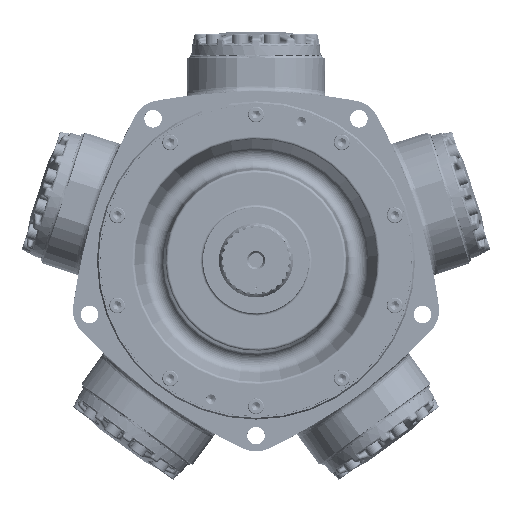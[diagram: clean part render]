
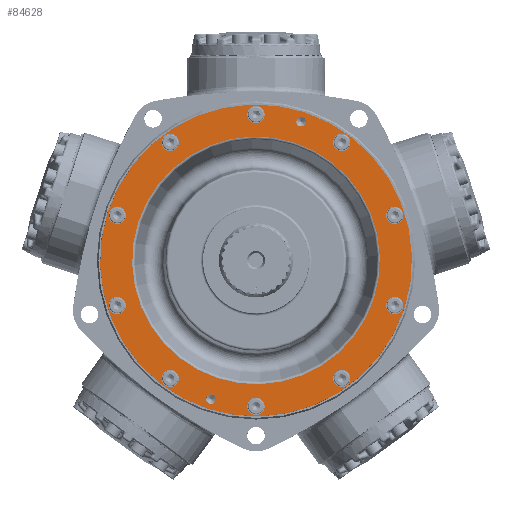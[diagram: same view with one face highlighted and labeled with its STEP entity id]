
A CAD part, top view. The second image highlights one B-rep face of the part: STEP entity #84628.
In plain terms, the highlighted planar face has unit normal (0, 0, 1).
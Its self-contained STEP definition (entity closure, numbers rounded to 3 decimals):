
#6996=FACE_BOUND('',#25705,.T.);
#6997=FACE_BOUND('',#25706,.T.);
#6998=FACE_BOUND('',#25707,.T.);
#6999=FACE_BOUND('',#25708,.T.);
#7000=FACE_BOUND('',#25709,.T.);
#7001=FACE_BOUND('',#25710,.T.);
#7002=FACE_BOUND('',#25711,.T.);
#7003=FACE_BOUND('',#25712,.T.);
#7004=FACE_BOUND('',#25713,.T.);
#7005=FACE_BOUND('',#25714,.T.);
#7006=FACE_BOUND('',#25715,.T.);
#7007=FACE_BOUND('',#25716,.T.);
#7008=FACE_BOUND('',#25717,.T.);
#16600=PLANE('',#90838);
#20435=FACE_OUTER_BOUND('',#25704,.T.);
#25704=EDGE_LOOP('',(#66732));
#25705=EDGE_LOOP('',(#66733));
#25706=EDGE_LOOP('',(#66734));
#25707=EDGE_LOOP('',(#66735));
#25708=EDGE_LOOP('',(#66736));
#25709=EDGE_LOOP('',(#66737));
#25710=EDGE_LOOP('',(#66738));
#25711=EDGE_LOOP('',(#66739));
#25712=EDGE_LOOP('',(#66740));
#25713=EDGE_LOOP('',(#66741));
#25714=EDGE_LOOP('',(#66742));
#25715=EDGE_LOOP('',(#66743));
#25716=EDGE_LOOP('',(#66744));
#25717=EDGE_LOOP('',(#66745));
#29882=CIRCLE('',#90807,186.628);
#29884=CIRCLE('',#90811,5.664);
#29885=CIRCLE('',#90813,5.664);
#29887=CIRCLE('',#90816,10.319);
#29888=CIRCLE('',#90818,10.319);
#29890=CIRCLE('',#90821,10.319);
#29891=CIRCLE('',#90823,10.319);
#29893=CIRCLE('',#90826,10.319);
#29894=CIRCLE('',#90828,10.319);
#29895=CIRCLE('',#90830,10.319);
#29896=CIRCLE('',#90832,10.319);
#29898=CIRCLE('',#90835,10.319);
#29899=CIRCLE('',#90837,10.319);
#29900=CIRCLE('',#90839,148.273);
#36351=VERTEX_POINT('',#187895);
#36353=VERTEX_POINT('',#187903);
#36354=VERTEX_POINT('',#187907);
#36356=VERTEX_POINT('',#187913);
#36357=VERTEX_POINT('',#187917);
#36359=VERTEX_POINT('',#187923);
#36360=VERTEX_POINT('',#187927);
#36362=VERTEX_POINT('',#187933);
#36363=VERTEX_POINT('',#187937);
#36364=VERTEX_POINT('',#187941);
#36365=VERTEX_POINT('',#187945);
#36367=VERTEX_POINT('',#187951);
#36368=VERTEX_POINT('',#187955);
#36369=VERTEX_POINT('',#187959);
#46874=EDGE_CURVE('',#36351,#36351,#29882,.T.);
#46878=EDGE_CURVE('',#36353,#36353,#29884,.T.);
#46880=EDGE_CURVE('',#36354,#36354,#29885,.T.);
#46884=EDGE_CURVE('',#36356,#36356,#29887,.T.);
#46886=EDGE_CURVE('',#36357,#36357,#29888,.T.);
#46889=EDGE_CURVE('',#36359,#36359,#29890,.T.);
#46891=EDGE_CURVE('',#36360,#36360,#29891,.T.);
#46894=EDGE_CURVE('',#36362,#36362,#29893,.T.);
#46896=EDGE_CURVE('',#36363,#36363,#29894,.T.);
#46898=EDGE_CURVE('',#36364,#36364,#29895,.T.);
#46900=EDGE_CURVE('',#36365,#36365,#29896,.T.);
#46903=EDGE_CURVE('',#36367,#36367,#29898,.T.);
#46905=EDGE_CURVE('',#36368,#36368,#29899,.T.);
#46906=EDGE_CURVE('',#36369,#36369,#29900,.T.);
#66732=ORIENTED_EDGE('',*,*,#46874,.T.);
#66733=ORIENTED_EDGE('',*,*,#46878,.T.);
#66734=ORIENTED_EDGE('',*,*,#46880,.T.);
#66735=ORIENTED_EDGE('',*,*,#46884,.T.);
#66736=ORIENTED_EDGE('',*,*,#46886,.T.);
#66737=ORIENTED_EDGE('',*,*,#46889,.T.);
#66738=ORIENTED_EDGE('',*,*,#46891,.T.);
#66739=ORIENTED_EDGE('',*,*,#46894,.T.);
#66740=ORIENTED_EDGE('',*,*,#46896,.T.);
#66741=ORIENTED_EDGE('',*,*,#46898,.T.);
#66742=ORIENTED_EDGE('',*,*,#46900,.T.);
#66743=ORIENTED_EDGE('',*,*,#46903,.T.);
#66744=ORIENTED_EDGE('',*,*,#46905,.T.);
#66745=ORIENTED_EDGE('',*,*,#46906,.F.);
#84628=ADVANCED_FACE('',(#20435,#6996,#6997,#6998,#6999,#7000,#7001,#7002,
#7003,#7004,#7005,#7006,#7007,#7008),#16600,.T.);
#90807=AXIS2_PLACEMENT_3D('',#187896,#104289,#104290);
#90811=AXIS2_PLACEMENT_3D('',#187904,#104299,#104300);
#90813=AXIS2_PLACEMENT_3D('',#187908,#104304,#104305);
#90816=AXIS2_PLACEMENT_3D('',#187915,#104312,#104313);
#90818=AXIS2_PLACEMENT_3D('',#187919,#104317,#104318);
#90821=AXIS2_PLACEMENT_3D('',#187925,#104324,#104325);
#90823=AXIS2_PLACEMENT_3D('',#187929,#104329,#104330);
#90826=AXIS2_PLACEMENT_3D('',#187935,#104336,#104337);
#90828=AXIS2_PLACEMENT_3D('',#187939,#104341,#104342);
#90830=AXIS2_PLACEMENT_3D('',#187943,#104346,#104347);
#90832=AXIS2_PLACEMENT_3D('',#187947,#104351,#104352);
#90835=AXIS2_PLACEMENT_3D('',#187953,#104358,#104359);
#90837=AXIS2_PLACEMENT_3D('',#187957,#104363,#104364);
#90838=AXIS2_PLACEMENT_3D('',#187958,#104365,#104366);
#90839=AXIS2_PLACEMENT_3D('',#187960,#104367,#104368);
#104289=DIRECTION('center_axis',(0.,0.,
1.));
#104290=DIRECTION('ref_axis',(0.309,0.951,0.));
#104299=DIRECTION('center_axis',(0.,0.,
-1.));
#104300=DIRECTION('ref_axis',(0.951,-0.309,0.));
#104304=DIRECTION('center_axis',(0.,0.,
-1.));
#104305=DIRECTION('ref_axis',(0.951,-0.309,0.));
#104312=DIRECTION('center_axis',(0.,0.,
-1.));
#104313=DIRECTION('ref_axis',(-0.588,0.809,0.));
#104317=DIRECTION('center_axis',(0.,0.,
-1.));
#104318=DIRECTION('ref_axis',(0.,1.,0.));
#104324=DIRECTION('center_axis',(0.,0.,
-1.));
#104325=DIRECTION('ref_axis',(0.588,0.809,0.));
#104329=DIRECTION('center_axis',(0.,0.,
-1.));
#104330=DIRECTION('ref_axis',(0.951,0.309,0.));
#104336=DIRECTION('center_axis',(0.,0.,
-1.));
#104337=DIRECTION('ref_axis',(0.951,-0.309,0.));
#104341=DIRECTION('center_axis',(0.,0.,
-1.));
#104342=DIRECTION('ref_axis',(0.588,-0.809,0.));
#104346=DIRECTION('center_axis',(0.,0.,
-1.));
#104347=DIRECTION('ref_axis',(0.,-1.,0.));
#104351=DIRECTION('center_axis',(0.,0.,
-1.));
#104352=DIRECTION('ref_axis',(-0.588,-0.809,0.));
#104358=DIRECTION('center_axis',(0.,0.,
-1.));
#104359=DIRECTION('ref_axis',(-0.951,-0.309,0.));
#104363=DIRECTION('center_axis',(0.,0.,
-1.));
#104364=DIRECTION('ref_axis',(-0.951,0.309,0.));
#104365=DIRECTION('center_axis',(0.,0.,
1.));
#104366=DIRECTION('ref_axis',(0.951,-0.309,0.));
#104367=DIRECTION('center_axis',(0.,0.,
1.));
#104368=DIRECTION('ref_axis',(-0.309,-0.951,0.));
#187895=CARTESIAN_POINT('',(-57.671,-177.493,119.254));
#187896=CARTESIAN_POINT('Origin',(0.,0.,
119.254));
#187903=CARTESIAN_POINT('',(48.575,167.829,119.254));
#187904=CARTESIAN_POINT('Origin',(53.962,166.078,119.254));
#187907=CARTESIAN_POINT('',(-59.349,-164.328,119.254));
#187908=CARTESIAN_POINT('Origin',(-53.962,-166.078,119.254));
#187913=CARTESIAN_POINT('',(108.707,-149.623,119.254));
#187915=CARTESIAN_POINT('Origin',(102.642,-141.275,119.254));
#187917=CARTESIAN_POINT('',(0.,-184.944,119.254));
#187919=CARTESIAN_POINT('Origin',(0.,-174.625,119.254));
#187923=CARTESIAN_POINT('',(-108.707,-149.623,119.254));
#187925=CARTESIAN_POINT('Origin',(-102.642,-141.275,119.254));
#187927=CARTESIAN_POINT('',(-175.892,-57.151,119.254));
#187929=CARTESIAN_POINT('Origin',(-166.078,-53.962,119.254));
#187933=CARTESIAN_POINT('',(-175.892,57.151,119.254));
#187935=CARTESIAN_POINT('Origin',(-166.078,53.962,119.254));
#187937=CARTESIAN_POINT('',(-108.707,149.623,119.254));
#187939=CARTESIAN_POINT('Origin',(-102.642,141.275,119.254));
#187941=CARTESIAN_POINT('',(0.,184.944,119.254));
#187943=CARTESIAN_POINT('Origin',(0.,174.625,119.254));
#187945=CARTESIAN_POINT('',(108.707,149.623,119.254));
#187947=CARTESIAN_POINT('Origin',(102.642,141.275,119.254));
#187951=CARTESIAN_POINT('',(175.892,57.151,119.254));
#187953=CARTESIAN_POINT('Origin',(166.078,53.962,119.254));
#187955=CARTESIAN_POINT('',(175.892,-57.151,119.254));
#187957=CARTESIAN_POINT('Origin',(166.078,-53.962,119.254));
#187958=CARTESIAN_POINT('Origin',(52.49,161.549,119.254));
#187959=CARTESIAN_POINT('',(-141.016,45.819,119.254));
#187960=CARTESIAN_POINT('Origin',(0.,0.,
119.254));
